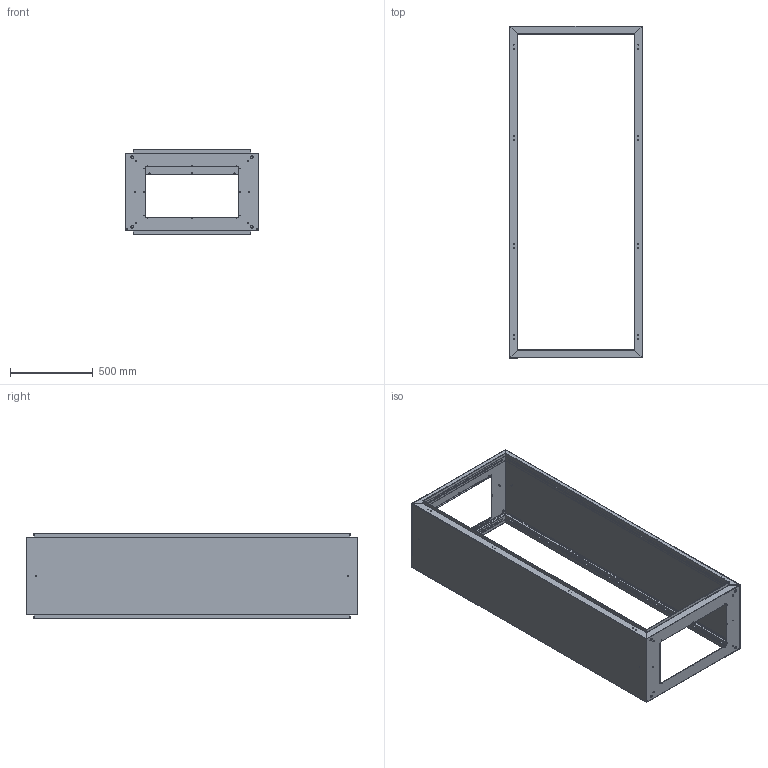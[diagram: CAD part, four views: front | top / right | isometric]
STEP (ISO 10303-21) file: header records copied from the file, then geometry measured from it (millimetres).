
FILE_DESCRIPTION (( 'STEP AP203' ), '1' );
FILE_NAME ('800x2000x500.STEP', '2021-11-11T16:50:22', ( '' ), ( '' ), 'SwSTEP 2.0', 'SolidWorks 2019', '' );
FILE_SCHEMA (( 'CONFIG_CONTROL_DESIGN' ));
Products named in the file (4): Üst Kapak 1,5mm_monoblok_tekkapakrevize_PP 16.1011 800Gx500D šST; Yan Kapak 1,5mm_monoblok_tekkapakrevize_PP 16.1007 - 2000Yx500D YAN; 800x2000x500; Alt Kapak 1,5mm_monoblok_tekkapakrevize_PP 16.1020 800Gx500D ALT
Assembly tree (4 placements, depth 2):
  800x2000x500
    Alt Kapak 1,5mm_monoblok_tekkapakrevize_PP 16.1020 800Gx500D ALT
    Üst Kapak 1,5mm_monoblok_tekkapakrevize_PP 16.1011 800Gx500D šST
    Yan Kapak 1,5mm_monoblok_tekkapakrevize_PP 16.1007 - 2000Yx500D YAN  x2
Bounding box: 800 x 2000 x 512 mm (x, y, z)
Volume: 5664672.5 mm3; surface area: 7647709.7 mm2
Topology: 4 solids, 4 shells, 5420 faces, 15972 edges, 10568 vertices
Faces by surface type: plane 3532, cylinder 1872, bspline 16
Entity records: 121706 total; most frequent: CARTESIAN_POINT 21167, ORIENTED_EDGE 20656, DIRECTION 19726, EDGE_CURVE 10328, LINE 7904, VECTOR 7904, VERTEX_POINT 6824, AXIS2_PLACEMENT_3D 5911
